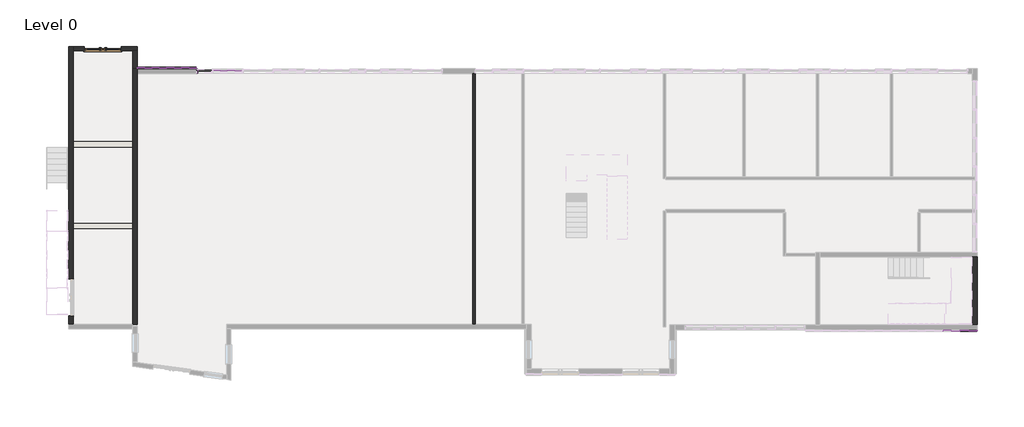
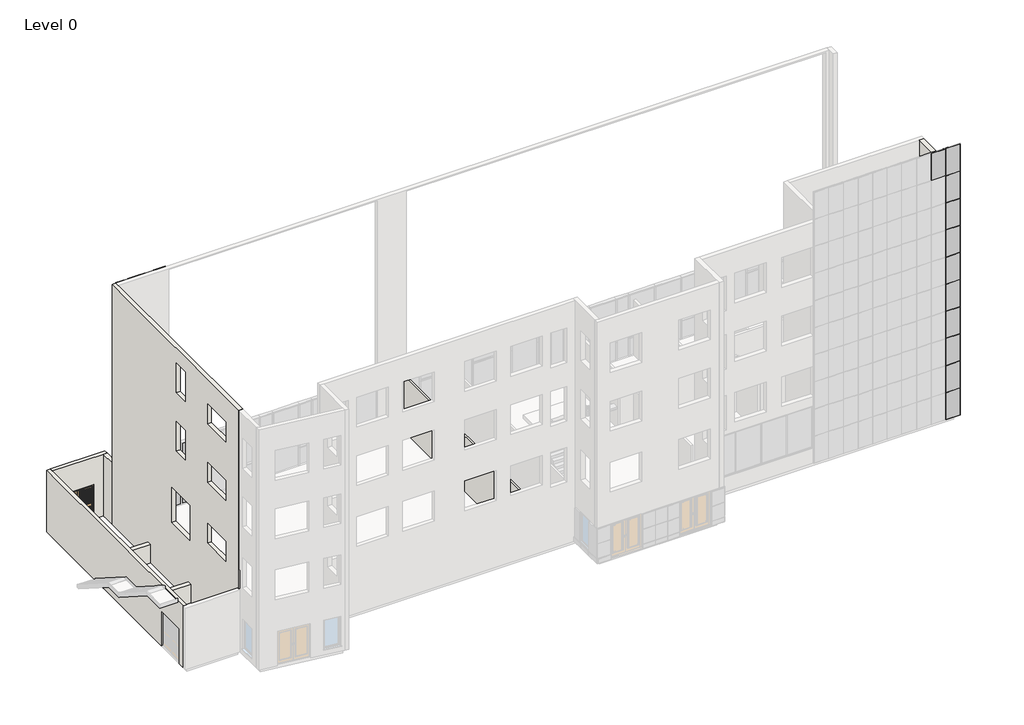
# One storey, part 5 of 10: 50 plates, 49 members, 8 walls, 1 door.
"""IFC4 building model written with IfcOpenShell, lengths in millimetres."""

from ifc_helpers import new_model, si_unit, origin, origin_with_axes, place, context, project, spatial, polyline, outline, extrude, faceted_brep, transform, mapped, element, save
from components import doors_extdbl_louvre_w_transome_1810x2110mm_eca85ab6, rectangular_mullion_25x25mm_6f655d27, rectangular_mullion_25x25mm_ababed0b, rectangular_mullion_25x25mm_a3ff25c1, rectangular_mullion_25x25mm_c524c6a9, rectangular_mullion_25x25mm_87b81b05, rectangular_mullion_25x25mm_c838776f, rectangular_mullion_25x25mm_c63ed219, rectangular_mullion_25x25mm_a7b21d2d, rectangular_mullion_25x25mm_4133c801, rectangular_mullion_25x25mm_6ee4613f, rectangular_mullion_25x25mm_0ea179df, rectangular_mullion_25x25mm_8d901635, rectangular_mullion_50x180mm_7153291d, rectangular_mullion_50x180mm_95299f7d, rectangular_mullion_50x180mm_b6846536, curtain_panels_solid_solid_panel_green_b2436ba5, curtain_panels_solid_solid_panel_green_14d680d5, curtain_panels_solid_solid_panel_green_e5ea026e, system_panel_black_panel_9c91f909, system_panel_white_panel_6a64f577, system_panel_white_panel_ff540c20

model = new_model("IFC4")

# Units and contexts
model_context = context("Model", 3, world=origin())
ifc_project = project(units=[si_unit("LENGTHUNIT", "METRE", prefix="MILLI")], contexts=[model_context])

# Site, building, storey
site = spatial("IfcSite", under=ifc_project)
building = spatial("IfcBuilding", under=site)
storey = spatial("IfcBuildingStorey", under=building, Name="Level 0", Elevation=0.0)

# Door
placement = place(None, origin())
doors_extdbl_louvre_w_transome_1810x2110mm_shape = doors_extdbl_louvre_w_transome_1810x2110mm_eca85ab6(model_context)
element("IfcDoor", 1, ObjectType="Doors_ExtDbl_Louvre_w-Transome : 1810x2110mm", at=placement, inside=storey, context=model_context, shape_type="MappedRepresentation", body=[
    mapped(doors_extdbl_louvre_w_transome_1810x2110mm_shape, transform((-3106.7140427, 10232.4946591, 0.0), x_axis=(-1.0, 0.0, 0.0), y_axis=(0.0, -1.0, 0.0), z_axis=(0.0, 0.0, 1.0))),
])

# Members
rectangular_mullion_25x25mm_shape = rectangular_mullion_25x25mm_6f655d27(model_context)
element("IfcMember", 2, ObjectType="Rectangular Mullion : 25x25mm", at=placement, inside=storey, context=model_context, shape_type="MappedRepresentation", body=[
    mapped(rectangular_mullion_25x25mm_shape, transform((39655.7942367, -3560.0053409, 0.0), x_axis=(0.0, 0.0, -1.0), y_axis=(0.0, 1.0, 0.0), z_axis=(1.0, 0.0, 0.0))),
])
rectangular_mullion_25x25mm_2_shape = rectangular_mullion_25x25mm_ababed0b(model_context)
element("IfcMember", 3, ObjectType="Rectangular Mullion : 25x25mm", at=placement, inside=storey, context=model_context, shape_type="MappedRepresentation", body=[
    mapped(rectangular_mullion_25x25mm_2_shape, transform((38816.3642365, -3560.0053409, 1660.0), x_axis=(0.0, 0.0, 1.0), y_axis=(0.0, 1.0, 0.0), z_axis=(-1.0, 0.0, 0.0))),
])
element("IfcMember", 4, ObjectType="Rectangular Mullion : 25x25mm", at=placement, inside=storey, context=model_context, shape_type="MappedRepresentation", body=[
    mapped(rectangular_mullion_25x25mm_2_shape, transform((38816.3642365, -3560.0053409, 3307.5), x_axis=(0.0, 0.0, 1.0), y_axis=(0.0, 1.0, 0.0), z_axis=(-1.0, 0.0, 0.0))),
])
element("IfcMember", 5, ObjectType="Rectangular Mullion : 25x25mm", at=placement, inside=storey, context=model_context, shape_type="MappedRepresentation", body=[
    mapped(rectangular_mullion_25x25mm_2_shape, transform((38816.3642365, -3560.0053409, 4955.0), x_axis=(0.0, 0.0, 1.0), y_axis=(0.0, 1.0, 0.0), z_axis=(-1.0, 0.0, 0.0))),
])
element("IfcMember", 6, ObjectType="Rectangular Mullion : 25x25mm", at=placement, inside=storey, context=model_context, shape_type="MappedRepresentation", body=[
    mapped(rectangular_mullion_25x25mm_2_shape, transform((38816.3642365, -3560.0053409, 6602.5), x_axis=(0.0, 0.0, 1.0), y_axis=(0.0, 1.0, 0.0), z_axis=(-1.0, 0.0, 0.0))),
])
element("IfcMember", 7, ObjectType="Rectangular Mullion : 25x25mm", at=placement, inside=storey, context=model_context, shape_type="MappedRepresentation", body=[
    mapped(rectangular_mullion_25x25mm_2_shape, transform((38816.3642365, -3560.0053409, 8250.0), x_axis=(0.0, 0.0, 1.0), y_axis=(0.0, 1.0, 0.0), z_axis=(-1.0, 0.0, 0.0))),
])
element("IfcMember", 8, ObjectType="Rectangular Mullion : 25x25mm", at=placement, inside=storey, context=model_context, shape_type="MappedRepresentation", body=[
    mapped(rectangular_mullion_25x25mm_2_shape, transform((38816.3642365, -3560.0053409, 9897.5), x_axis=(0.0, 0.0, 1.0), y_axis=(0.0, 1.0, 0.0), z_axis=(-1.0, 0.0, 0.0))),
])
element("IfcMember", 9, ObjectType="Rectangular Mullion : 25x25mm", at=placement, inside=storey, context=model_context, shape_type="MappedRepresentation", body=[
    mapped(rectangular_mullion_25x25mm_2_shape, transform((38816.3642365, -3560.0053409, 11545.0), x_axis=(0.0, 0.0, 1.0), y_axis=(0.0, 1.0, 0.0), z_axis=(-1.0, 0.0, 0.0))),
])
element("IfcMember", 10, ObjectType="Rectangular Mullion : 25x25mm", at=placement, inside=storey, context=model_context, shape_type="MappedRepresentation", body=[
    mapped(rectangular_mullion_25x25mm_2_shape, transform((38816.3642365, -3560.0053409, 13192.5), x_axis=(0.0, 0.0, 1.0), y_axis=(0.0, 1.0, 0.0), z_axis=(-1.0, 0.0, 0.0))),
])
element("IfcMember", 11, ObjectType="Rectangular Mullion : 25x25mm", at=placement, inside=storey, context=model_context, shape_type="MappedRepresentation", body=[
    mapped(rectangular_mullion_25x25mm_2_shape, transform((38816.3642365, -3560.0053409, 14840.0), x_axis=(0.0, 0.0, 1.0), y_axis=(0.0, 1.0, 0.0), z_axis=(-1.0, 0.0, 0.0))),
])
rectangular_mullion_25x25mm_3_shape = rectangular_mullion_25x25mm_a3ff25c1(model_context)
element("IfcMember", 12, ObjectType="Rectangular Mullion : 25x25mm", at=placement, inside=storey, context=model_context, shape_type="MappedRepresentation", body=[
    mapped(rectangular_mullion_25x25mm_3_shape, transform((740.7900968, 9282.4946591, 11348.6111111), x_axis=(-1.0, 0.0, 0.0), y_axis=(0.0, 1.0, 0.0), z_axis=(0.0, 0.0, -1.0))),
])
element("IfcMember", 13, ObjectType="Rectangular Mullion : 25x25mm", at=placement, inside=storey, context=model_context, shape_type="MappedRepresentation", body=[
    mapped(rectangular_mullion_25x25mm_3_shape, transform((13.2859573, 9282.4946591, 11348.6111111), x_axis=(-1.0, 0.0, 0.0), y_axis=(0.0, 1.0, 0.0), z_axis=(0.0, 0.0, -1.0))),
])
element("IfcMember", 14, ObjectType="Rectangular Mullion : 25x25mm", at=placement, inside=storey, context=model_context, shape_type="MappedRepresentation", body=[
    mapped(rectangular_mullion_25x25mm_3_shape, transform((-714.2181823, 9282.4946591, 11348.6111111), x_axis=(-1.0, 0.0, 0.0), y_axis=(0.0, 1.0, 0.0), z_axis=(0.0, 0.0, -1.0))),
])
rectangular_mullion_25x25mm_4_shape = rectangular_mullion_25x25mm_c524c6a9(model_context)
element("IfcMember", 15, ObjectType="Rectangular Mullion : 25x25mm", at=placement, inside=storey, context=model_context, shape_type="MappedRepresentation", body=[
    mapped(rectangular_mullion_25x25mm_4_shape, transform((740.7900968, 9282.4946591, 12968.0555556), x_axis=(-1.0, 0.0, 0.0), y_axis=(0.0, 1.0, 0.0), z_axis=(0.0, 0.0, -1.0))),
])
element("IfcMember", 16, ObjectType="Rectangular Mullion : 25x25mm", at=placement, inside=storey, context=model_context, shape_type="MappedRepresentation", body=[
    mapped(rectangular_mullion_25x25mm_4_shape, transform((13.2859573, 9282.4946591, 12968.0555556), x_axis=(-1.0, 0.0, 0.0), y_axis=(0.0, 1.0, 0.0), z_axis=(0.0, 0.0, -1.0))),
])
element("IfcMember", 17, ObjectType="Rectangular Mullion : 25x25mm", at=placement, inside=storey, context=model_context, shape_type="MappedRepresentation", body=[
    mapped(rectangular_mullion_25x25mm_4_shape, transform((-714.2181823, 9282.4946591, 12968.0555556), x_axis=(-1.0, 0.0, 0.0), y_axis=(0.0, 1.0, 0.0), z_axis=(0.0, 0.0, -1.0))),
])
rectangular_mullion_25x25mm_5_shape = rectangular_mullion_25x25mm_87b81b05(model_context)
element("IfcMember", 18, ObjectType="Rectangular Mullion : 25x25mm", at=placement, inside=storey, context=model_context, shape_type="MappedRepresentation", body=[
    mapped(rectangular_mullion_25x25mm_5_shape, transform((753.2900968, 9282.4946591, 11348.6111111), x_axis=(0.0, 0.0, 1.0), y_axis=(0.0, 1.0, 0.0), z_axis=(-1.0, 0.0, 0.0))),
])
element("IfcMember", 19, ObjectType="Rectangular Mullion : 25x25mm", at=placement, inside=storey, context=model_context, shape_type="MappedRepresentation", body=[
    mapped(rectangular_mullion_25x25mm_5_shape, transform((25.7859573, 9282.4946591, 11348.6111111), x_axis=(0.0, 0.0, 1.0), y_axis=(0.0, 1.0, 0.0), z_axis=(-1.0, 0.0, 0.0))),
])
element("IfcMember", 20, ObjectType="Rectangular Mullion : 25x25mm", at=placement, inside=storey, context=model_context, shape_type="MappedRepresentation", body=[
    mapped(rectangular_mullion_25x25mm_5_shape, transform((-701.7181823, 9282.4946591, 11348.6111111), x_axis=(0.0, 0.0, 1.0), y_axis=(0.0, 1.0, 0.0), z_axis=(-1.0, 0.0, 0.0))),
])
element("IfcMember", 21, ObjectType="Rectangular Mullion : 25x25mm", at=placement, inside=storey, context=model_context, shape_type="MappedRepresentation", body=[
    mapped(rectangular_mullion_25x25mm_5_shape, transform((753.2900968, 9282.4946591, 12968.0555556), x_axis=(0.0, 0.0, 1.0), y_axis=(0.0, 1.0, 0.0), z_axis=(-1.0, 0.0, 0.0))),
])
element("IfcMember", 22, ObjectType="Rectangular Mullion : 25x25mm", at=placement, inside=storey, context=model_context, shape_type="MappedRepresentation", body=[
    mapped(rectangular_mullion_25x25mm_5_shape, transform((25.7859573, 9282.4946591, 12968.0555556), x_axis=(0.0, 0.0, 1.0), y_axis=(0.0, 1.0, 0.0), z_axis=(-1.0, 0.0, 0.0))),
])
element("IfcMember", 23, ObjectType="Rectangular Mullion : 25x25mm", at=placement, inside=storey, context=model_context, shape_type="MappedRepresentation", body=[
    mapped(rectangular_mullion_25x25mm_5_shape, transform((-701.7181823, 9282.4946591, 12968.0555556), x_axis=(0.0, 0.0, 1.0), y_axis=(0.0, 1.0, 0.0), z_axis=(-1.0, 0.0, 0.0))),
])
rectangular_mullion_25x25mm_6_shape = rectangular_mullion_25x25mm_c838776f(model_context)
element("IfcMember", 24, ObjectType="Rectangular Mullion : 25x25mm", at=placement, inside=storey, context=model_context, shape_type="MappedRepresentation", body=[
    mapped(rectangular_mullion_25x25mm_6_shape, transform((-1404.2223222, 9282.4946591, 11348.6111111), x_axis=(0.0, 0.0, 1.0), y_axis=(0.0, 1.0, 0.0), z_axis=(-1.0, 0.0, 0.0))),
])
element("IfcMember", 25, ObjectType="Rectangular Mullion : 25x25mm", at=placement, inside=storey, context=model_context, shape_type="MappedRepresentation", body=[
    mapped(rectangular_mullion_25x25mm_6_shape, transform((-1404.2223222, 9282.4946591, 12968.0555556), x_axis=(0.0, 0.0, 1.0), y_axis=(0.0, 1.0, 0.0), z_axis=(-1.0, 0.0, 0.0))),
])
rectangular_mullion_25x25mm_7_shape = rectangular_mullion_25x25mm_c63ed219(model_context)
element("IfcMember", 26, ObjectType="Rectangular Mullion : 25x25mm", at=placement, inside=storey, context=model_context, shape_type="MappedRepresentation", body=[
    mapped(rectangular_mullion_25x25mm_7_shape, transform((1480.7942367, 9282.4946591, 11348.6111111), x_axis=(1.0, 0.0, 0.0), y_axis=(0.0, 1.0, 0.0), z_axis=(0.0, 0.0, 1.0))),
])
element("IfcMember", 27, ObjectType="Rectangular Mullion : 25x25mm", at=placement, inside=storey, context=model_context, shape_type="MappedRepresentation", body=[
    mapped(rectangular_mullion_25x25mm_7_shape, transform((1480.7942367, 9282.4946591, 12968.0555556), x_axis=(1.0, 0.0, 0.0), y_axis=(0.0, 1.0, 0.0), z_axis=(0.0, 0.0, 1.0))),
])
element("IfcMember", 28, ObjectType="Rectangular Mullion : 25x25mm", at=placement, inside=storey, context=model_context, shape_type="MappedRepresentation", body=[
    mapped(rectangular_mullion_25x25mm_7_shape, transform((-1429.2223222, 9282.4946591, 11348.6111111), x_axis=(-1.0, 0.0, 0.0), y_axis=(0.0, 1.0, 0.0), z_axis=(0.0, 0.0, -1.0))),
])
rectangular_mullion_25x25mm_8_shape = rectangular_mullion_25x25mm_a7b21d2d(model_context)
element("IfcMember", 29, ObjectType="Rectangular Mullion : 25x25mm", at=placement, inside=storey, context=model_context, shape_type="MappedRepresentation", body=[
    mapped(rectangular_mullion_25x25mm_8_shape, transform((-1429.2223222, 9282.4946591, 12968.0555556), x_axis=(-1.0, 0.0, 0.0), y_axis=(0.0, 1.0, 0.0), z_axis=(0.0, 0.0, -1.0))),
])
rectangular_mullion_25x25mm_9_shape = rectangular_mullion_25x25mm_4133c801(model_context)
element("IfcMember", 30, ObjectType="Rectangular Mullion : 25x25mm", at=placement, inside=storey, context=model_context, shape_type="MappedRepresentation", body=[
    mapped(rectangular_mullion_25x25mm_9_shape, transform((38803.8642365, -3560.0053409, 3307.5), x_axis=(-1.0, 0.0, 0.0), y_axis=(0.0, 1.0, 0.0), z_axis=(0.0, 0.0, -1.0))),
])
element("IfcMember", 31, ObjectType="Rectangular Mullion : 25x25mm", at=placement, inside=storey, context=model_context, shape_type="MappedRepresentation", body=[
    mapped(rectangular_mullion_25x25mm_9_shape, transform((38803.8642365, -3560.0053409, 4955.0), x_axis=(-1.0, 0.0, 0.0), y_axis=(0.0, 1.0, 0.0), z_axis=(0.0, 0.0, -1.0))),
])
element("IfcMember", 32, ObjectType="Rectangular Mullion : 25x25mm", at=placement, inside=storey, context=model_context, shape_type="MappedRepresentation", body=[
    mapped(rectangular_mullion_25x25mm_9_shape, transform((38803.8642365, -3560.0053409, 6602.5), x_axis=(-1.0, 0.0, 0.0), y_axis=(0.0, 1.0, 0.0), z_axis=(0.0, 0.0, -1.0))),
])
element("IfcMember", 33, ObjectType="Rectangular Mullion : 25x25mm", at=placement, inside=storey, context=model_context, shape_type="MappedRepresentation", body=[
    mapped(rectangular_mullion_25x25mm_9_shape, transform((38803.8642365, -3560.0053409, 8250.0), x_axis=(-1.0, 0.0, 0.0), y_axis=(0.0, 1.0, 0.0), z_axis=(0.0, 0.0, -1.0))),
])
element("IfcMember", 34, ObjectType="Rectangular Mullion : 25x25mm", at=placement, inside=storey, context=model_context, shape_type="MappedRepresentation", body=[
    mapped(rectangular_mullion_25x25mm_9_shape, transform((38803.8642365, -3560.0053409, 9897.5), x_axis=(-1.0, 0.0, 0.0), y_axis=(0.0, 1.0, 0.0), z_axis=(0.0, 0.0, -1.0))),
])
element("IfcMember", 35, ObjectType="Rectangular Mullion : 25x25mm", at=placement, inside=storey, context=model_context, shape_type="MappedRepresentation", body=[
    mapped(rectangular_mullion_25x25mm_9_shape, transform((38803.8642365, -3560.0053409, 11545.0), x_axis=(-1.0, 0.0, 0.0), y_axis=(0.0, 1.0, 0.0), z_axis=(0.0, 0.0, -1.0))),
])
element("IfcMember", 36, ObjectType="Rectangular Mullion : 25x25mm", at=placement, inside=storey, context=model_context, shape_type="MappedRepresentation", body=[
    mapped(rectangular_mullion_25x25mm_9_shape, transform((38803.8642365, -3560.0053409, 13192.5), x_axis=(-1.0, 0.0, 0.0), y_axis=(0.0, 1.0, 0.0), z_axis=(0.0, 0.0, -1.0))),
])
rectangular_mullion_25x25mm_10_shape = rectangular_mullion_25x25mm_6ee4613f(model_context)
element("IfcMember", 37, ObjectType="Rectangular Mullion : 25x25mm", at=placement, inside=storey, context=model_context, shape_type="MappedRepresentation", body=[
    mapped(rectangular_mullion_25x25mm_10_shape, transform((39655.7942367, -3560.0053409, 1660.0), x_axis=(1.0, 0.0, 0.0), y_axis=(0.0, 1.0, 0.0), z_axis=(0.0, 0.0, 1.0))),
])
rectangular_mullion_25x25mm_11_shape = rectangular_mullion_25x25mm_0ea179df(model_context)
element("IfcMember", 38, ObjectType="Rectangular Mullion : 25x25mm", at=placement, inside=storey, context=model_context, shape_type="MappedRepresentation", body=[
    mapped(rectangular_mullion_25x25mm_11_shape, transform((39655.7942367, -3560.0053409, 3307.5), x_axis=(1.0, 0.0, 0.0), y_axis=(0.0, 1.0, 0.0), z_axis=(0.0, 0.0, 1.0))),
])
element("IfcMember", 39, ObjectType="Rectangular Mullion : 25x25mm", at=placement, inside=storey, context=model_context, shape_type="MappedRepresentation", body=[
    mapped(rectangular_mullion_25x25mm_11_shape, transform((39655.7942367, -3560.0053409, 4955.0), x_axis=(1.0, 0.0, 0.0), y_axis=(0.0, 1.0, 0.0), z_axis=(0.0, 0.0, 1.0))),
])
element("IfcMember", 40, ObjectType="Rectangular Mullion : 25x25mm", at=placement, inside=storey, context=model_context, shape_type="MappedRepresentation", body=[
    mapped(rectangular_mullion_25x25mm_11_shape, transform((39655.7942367, -3560.0053409, 6602.5), x_axis=(1.0, 0.0, 0.0), y_axis=(0.0, 1.0, 0.0), z_axis=(0.0, 0.0, 1.0))),
])
element("IfcMember", 41, ObjectType="Rectangular Mullion : 25x25mm", at=placement, inside=storey, context=model_context, shape_type="MappedRepresentation", body=[
    mapped(rectangular_mullion_25x25mm_11_shape, transform((39655.7942367, -3560.0053409, 8250.0), x_axis=(1.0, 0.0, 0.0), y_axis=(0.0, 1.0, 0.0), z_axis=(0.0, 0.0, 1.0))),
])
element("IfcMember", 42, ObjectType="Rectangular Mullion : 25x25mm", at=placement, inside=storey, context=model_context, shape_type="MappedRepresentation", body=[
    mapped(rectangular_mullion_25x25mm_11_shape, transform((39655.7942367, -3560.0053409, 9897.5), x_axis=(1.0, 0.0, 0.0), y_axis=(0.0, 1.0, 0.0), z_axis=(0.0, 0.0, 1.0))),
])
element("IfcMember", 43, ObjectType="Rectangular Mullion : 25x25mm", at=placement, inside=storey, context=model_context, shape_type="MappedRepresentation", body=[
    mapped(rectangular_mullion_25x25mm_11_shape, transform((39655.7942367, -3560.0053409, 11545.0), x_axis=(1.0, 0.0, 0.0), y_axis=(0.0, 1.0, 0.0), z_axis=(0.0, 0.0, 1.0))),
])
element("IfcMember", 44, ObjectType="Rectangular Mullion : 25x25mm", at=placement, inside=storey, context=model_context, shape_type="MappedRepresentation", body=[
    mapped(rectangular_mullion_25x25mm_11_shape, transform((39655.7942367, -3560.0053409, 13192.5), x_axis=(1.0, 0.0, 0.0), y_axis=(0.0, 1.0, 0.0), z_axis=(0.0, 0.0, 1.0))),
])
element("IfcMember", 45, ObjectType="Rectangular Mullion : 25x25mm", at=placement, inside=storey, context=model_context, shape_type="MappedRepresentation", body=[
    mapped(rectangular_mullion_25x25mm_11_shape, transform((39655.7942367, -3560.0053409, 14840.0), x_axis=(1.0, 0.0, 0.0), y_axis=(0.0, 1.0, 0.0), z_axis=(0.0, 0.0, 1.0))),
])
rectangular_mullion_25x25mm_12_shape = rectangular_mullion_25x25mm_8d901635(model_context)
element("IfcMember", 46, ObjectType="Rectangular Mullion : 25x25mm", at=placement, inside=storey, context=model_context, shape_type="MappedRepresentation", body=[
    mapped(rectangular_mullion_25x25mm_12_shape, transform((38803.8642365, -3560.0053409, 14840.0), x_axis=(-1.0, 0.0, 0.0), y_axis=(0.0, 1.0, 0.0), z_axis=(0.0, 0.0, -1.0))),
])
element("IfcMember", 47, ObjectType="Rectangular Mullion : 25x25mm", at=placement, inside=storey, context=model_context, shape_type="MappedRepresentation", body=[
    mapped(rectangular_mullion_25x25mm_10_shape, transform((39655.7942367, -3560.0053409, 16475.0), x_axis=(1.0, 0.0, 0.0), y_axis=(0.0, 1.0, 0.0), z_axis=(0.0, 0.0, 1.0))),
])
rectangular_mullion_50x180mm_shape = rectangular_mullion_50x180mm_7153291d(model_context)
element("IfcMember", 48, ObjectType="Rectangular Mullion : 50x180mm", at=placement, inside=storey, context=model_context, shape_type="MappedRepresentation", body=[
    mapped(rectangular_mullion_50x180mm_shape, transform((1480.7942367, 9132.4946591, 1100.0), x_axis=(-1.0, 0.0, 0.0), y_axis=(0.0, -1.0, 0.0), z_axis=(0.0, 0.0, 1.0))),
])
rectangular_mullion_50x180mm_2_shape = rectangular_mullion_50x180mm_95299f7d(model_context)
element("IfcMember", 49, ObjectType="Rectangular Mullion : 50x180mm", at=placement, inside=storey, context=model_context, shape_type="MappedRepresentation", body=[
    mapped(rectangular_mullion_50x180mm_2_shape, transform((1480.7942367, 9132.4946591, 2700.0), x_axis=(-1.0, 0.0, 0.0), y_axis=(0.0, -1.0, 0.0), z_axis=(0.0, 0.0, 1.0))),
])
rectangular_mullion_50x180mm_3_shape = rectangular_mullion_50x180mm_b6846536(model_context)
element("IfcMember", 50, ObjectType="Rectangular Mullion : 50x180mm", at=placement, inside=storey, context=model_context, shape_type="MappedRepresentation", body=[
    mapped(rectangular_mullion_50x180mm_3_shape, transform((1480.7942367, 9132.4946591, 3700.0), x_axis=(-1.0, 0.0, 0.0), y_axis=(0.0, -1.0, 0.0), z_axis=(0.0, 0.0, 1.0))),
])

# Plates
curtain_panels_solid_solid_panel_green_shape = curtain_panels_solid_solid_panel_green_b2436ba5(model_context)
element("IfcPlate", 51, ObjectType="Curtain_Panels_Solid : Solid_Panel_Green", at=placement, inside=storey, context=model_context, shape_type="MappedRepresentation", body=[
    mapped(curtain_panels_solid_solid_panel_green_shape, transform((1104.5421667, 9282.4946591, 25.0), x_axis=(-1.0, 0.0, 0.0), y_axis=(0.0, -1.0, 0.0), z_axis=(0.0, 0.0, 1.0))),
])
element("IfcPlate", 52, ObjectType="Curtain_Panels_Solid : Solid_Panel_Green", at=placement, inside=storey, context=model_context, shape_type="MappedRepresentation", body=[
    mapped(curtain_panels_solid_solid_panel_green_shape, transform((377.038027, 9282.4946591, 25.0), x_axis=(-1.0, 0.0, 0.0), y_axis=(0.0, -1.0, 0.0), z_axis=(0.0, 0.0, 1.0))),
])
element("IfcPlate", 53, ObjectType="Curtain_Panels_Solid : Solid_Panel_Green", at=placement, inside=storey, context=model_context, shape_type="MappedRepresentation", body=[
    mapped(curtain_panels_solid_solid_panel_green_shape, transform((-350.4661125, 9282.4946591, 25.0), x_axis=(-1.0, 0.0, 0.0), y_axis=(0.0, -1.0, 0.0), z_axis=(0.0, 0.0, 1.0))),
])
element("IfcPlate", 54, ObjectType="Curtain_Panels_Solid : Solid_Panel_Green", at=placement, inside=storey, context=model_context, shape_type="MappedRepresentation", body=[
    mapped(curtain_panels_solid_solid_panel_green_shape, transform((1104.5421667, 9282.4946591, 1644.4444444), x_axis=(-1.0, 0.0, 0.0), y_axis=(0.0, -1.0, 0.0), z_axis=(0.0, 0.0, 1.0))),
])
element("IfcPlate", 55, ObjectType="Curtain_Panels_Solid : Solid_Panel_Green", at=placement, inside=storey, context=model_context, shape_type="MappedRepresentation", body=[
    mapped(curtain_panels_solid_solid_panel_green_shape, transform((377.038027, 9282.4946591, 1644.4444444), x_axis=(-1.0, 0.0, 0.0), y_axis=(0.0, -1.0, 0.0), z_axis=(0.0, 0.0, 1.0))),
])
element("IfcPlate", 56, ObjectType="Curtain_Panels_Solid : Solid_Panel_Green", at=placement, inside=storey, context=model_context, shape_type="MappedRepresentation", body=[
    mapped(curtain_panels_solid_solid_panel_green_shape, transform((-350.4661125, 9282.4946591, 1644.4444444), x_axis=(-1.0, 0.0, 0.0), y_axis=(0.0, -1.0, 0.0), z_axis=(0.0, 0.0, 1.0))),
])
element("IfcPlate", 57, ObjectType="Curtain_Panels_Solid : Solid_Panel_Green", at=placement, inside=storey, context=model_context, shape_type="MappedRepresentation", body=[
    mapped(curtain_panels_solid_solid_panel_green_shape, transform((1104.5421667, 9282.4946591, 3263.8888889), x_axis=(-1.0, 0.0, 0.0), y_axis=(0.0, -1.0, 0.0), z_axis=(0.0, 0.0, 1.0))),
])
element("IfcPlate", 58, ObjectType="Curtain_Panels_Solid : Solid_Panel_Green", at=placement, inside=storey, context=model_context, shape_type="MappedRepresentation", body=[
    mapped(curtain_panels_solid_solid_panel_green_shape, transform((377.038027, 9282.4946591, 3263.8888889), x_axis=(-1.0, 0.0, 0.0), y_axis=(0.0, -1.0, 0.0), z_axis=(0.0, 0.0, 1.0))),
])
element("IfcPlate", 59, ObjectType="Curtain_Panels_Solid : Solid_Panel_Green", at=placement, inside=storey, context=model_context, shape_type="MappedRepresentation", body=[
    mapped(curtain_panels_solid_solid_panel_green_shape, transform((-350.4661125, 9282.4946591, 3263.8888889), x_axis=(-1.0, 0.0, 0.0), y_axis=(0.0, -1.0, 0.0), z_axis=(0.0, 0.0, 1.0))),
])
element("IfcPlate", 60, ObjectType="Curtain_Panels_Solid : Solid_Panel_Green", at=placement, inside=storey, context=model_context, shape_type="MappedRepresentation", body=[
    mapped(curtain_panels_solid_solid_panel_green_shape, transform((1104.5421667, 9282.4946591, 4883.3333333), x_axis=(-1.0, 0.0, 0.0), y_axis=(0.0, -1.0, 0.0), z_axis=(0.0, 0.0, 1.0))),
])
element("IfcPlate", 61, ObjectType="Curtain_Panels_Solid : Solid_Panel_Green", at=placement, inside=storey, context=model_context, shape_type="MappedRepresentation", body=[
    mapped(curtain_panels_solid_solid_panel_green_shape, transform((377.038027, 9282.4946591, 4883.3333333), x_axis=(-1.0, 0.0, 0.0), y_axis=(0.0, -1.0, 0.0), z_axis=(0.0, 0.0, 1.0))),
])
element("IfcPlate", 62, ObjectType="Curtain_Panels_Solid : Solid_Panel_Green", at=placement, inside=storey, context=model_context, shape_type="MappedRepresentation", body=[
    mapped(curtain_panels_solid_solid_panel_green_shape, transform((-350.4661125, 9282.4946591, 4883.3333333), x_axis=(-1.0, 0.0, 0.0), y_axis=(0.0, -1.0, 0.0), z_axis=(0.0, 0.0, 1.0))),
])
element("IfcPlate", 63, ObjectType="Curtain_Panels_Solid : Solid_Panel_Green", at=placement, inside=storey, context=model_context, shape_type="MappedRepresentation", body=[
    mapped(curtain_panels_solid_solid_panel_green_shape, transform((1104.5421667, 9282.4946591, 6502.7777778), x_axis=(-1.0, 0.0, 0.0), y_axis=(0.0, -1.0, 0.0), z_axis=(0.0, 0.0, 1.0))),
])
element("IfcPlate", 64, ObjectType="Curtain_Panels_Solid : Solid_Panel_Green", at=placement, inside=storey, context=model_context, shape_type="MappedRepresentation", body=[
    mapped(curtain_panels_solid_solid_panel_green_shape, transform((377.038027, 9282.4946591, 6502.7777778), x_axis=(-1.0, 0.0, 0.0), y_axis=(0.0, -1.0, 0.0), z_axis=(0.0, 0.0, 1.0))),
])
element("IfcPlate", 65, ObjectType="Curtain_Panels_Solid : Solid_Panel_Green", at=placement, inside=storey, context=model_context, shape_type="MappedRepresentation", body=[
    mapped(curtain_panels_solid_solid_panel_green_shape, transform((-350.4661125, 9282.4946591, 6502.7777778), x_axis=(-1.0, 0.0, 0.0), y_axis=(0.0, -1.0, 0.0), z_axis=(0.0, 0.0, 1.0))),
])
element("IfcPlate", 66, ObjectType="Curtain_Panels_Solid : Solid_Panel_Green", at=placement, inside=storey, context=model_context, shape_type="MappedRepresentation", body=[
    mapped(curtain_panels_solid_solid_panel_green_shape, transform((1104.5421667, 9282.4946591, 8122.2222222), x_axis=(-1.0, 0.0, 0.0), y_axis=(0.0, -1.0, 0.0), z_axis=(0.0, 0.0, 1.0))),
])
element("IfcPlate", 67, ObjectType="Curtain_Panels_Solid : Solid_Panel_Green", at=placement, inside=storey, context=model_context, shape_type="MappedRepresentation", body=[
    mapped(curtain_panels_solid_solid_panel_green_shape, transform((377.038027, 9282.4946591, 8122.2222222), x_axis=(-1.0, 0.0, 0.0), y_axis=(0.0, -1.0, 0.0), z_axis=(0.0, 0.0, 1.0))),
])
element("IfcPlate", 68, ObjectType="Curtain_Panels_Solid : Solid_Panel_Green", at=placement, inside=storey, context=model_context, shape_type="MappedRepresentation", body=[
    mapped(curtain_panels_solid_solid_panel_green_shape, transform((-350.4661125, 9282.4946591, 8122.2222222), x_axis=(-1.0, 0.0, 0.0), y_axis=(0.0, -1.0, 0.0), z_axis=(0.0, 0.0, 1.0))),
])
element("IfcPlate", 69, ObjectType="Curtain_Panels_Solid : Solid_Panel_Green", at=placement, inside=storey, context=model_context, shape_type="MappedRepresentation", body=[
    mapped(curtain_panels_solid_solid_panel_green_shape, transform((1104.5421667, 9282.4946591, 9741.6666667), x_axis=(-1.0, 0.0, 0.0), y_axis=(0.0, -1.0, 0.0), z_axis=(0.0, 0.0, 1.0))),
])
element("IfcPlate", 70, ObjectType="Curtain_Panels_Solid : Solid_Panel_Green", at=placement, inside=storey, context=model_context, shape_type="MappedRepresentation", body=[
    mapped(curtain_panels_solid_solid_panel_green_shape, transform((377.038027, 9282.4946591, 9741.6666667), x_axis=(-1.0, 0.0, 0.0), y_axis=(0.0, -1.0, 0.0), z_axis=(0.0, 0.0, 1.0))),
])
element("IfcPlate", 71, ObjectType="Curtain_Panels_Solid : Solid_Panel_Green", at=placement, inside=storey, context=model_context, shape_type="MappedRepresentation", body=[
    mapped(curtain_panels_solid_solid_panel_green_shape, transform((-350.4661125, 9282.4946591, 9741.6666667), x_axis=(-1.0, 0.0, 0.0), y_axis=(0.0, -1.0, 0.0), z_axis=(0.0, 0.0, 1.0))),
])
element("IfcPlate", 72, ObjectType="Curtain_Panels_Solid : Solid_Panel_Green", at=placement, inside=storey, context=model_context, shape_type="MappedRepresentation", body=[
    mapped(curtain_panels_solid_solid_panel_green_shape, transform((1104.5421667, 9282.4946591, 11361.1111111), x_axis=(-1.0, 0.0, 0.0), y_axis=(0.0, -1.0, 0.0), z_axis=(0.0, 0.0, 1.0))),
])
element("IfcPlate", 73, ObjectType="Curtain_Panels_Solid : Solid_Panel_Green", at=placement, inside=storey, context=model_context, shape_type="MappedRepresentation", body=[
    mapped(curtain_panels_solid_solid_panel_green_shape, transform((377.038027, 9282.4946591, 11361.1111111), x_axis=(-1.0, 0.0, 0.0), y_axis=(0.0, -1.0, 0.0), z_axis=(0.0, 0.0, 1.0))),
])
element("IfcPlate", 74, ObjectType="Curtain_Panels_Solid : Solid_Panel_Green", at=placement, inside=storey, context=model_context, shape_type="MappedRepresentation", body=[
    mapped(curtain_panels_solid_solid_panel_green_shape, transform((-350.4661125, 9282.4946591, 11361.1111111), x_axis=(-1.0, 0.0, 0.0), y_axis=(0.0, -1.0, 0.0), z_axis=(0.0, 0.0, 1.0))),
])
element("IfcPlate", 75, ObjectType="Curtain_Panels_Solid : Solid_Panel_Green", at=placement, inside=storey, context=model_context, shape_type="MappedRepresentation", body=[
    mapped(curtain_panels_solid_solid_panel_green_shape, transform((1104.5421667, 9282.4946591, 12980.5555556), x_axis=(-1.0, 0.0, 0.0), y_axis=(0.0, -1.0, 0.0), z_axis=(0.0, 0.0, 1.0))),
])
element("IfcPlate", 76, ObjectType="Curtain_Panels_Solid : Solid_Panel_Green", at=placement, inside=storey, context=model_context, shape_type="MappedRepresentation", body=[
    mapped(curtain_panels_solid_solid_panel_green_shape, transform((377.038027, 9282.4946591, 12980.5555556), x_axis=(-1.0, 0.0, 0.0), y_axis=(0.0, -1.0, 0.0), z_axis=(0.0, 0.0, 1.0))),
])
element("IfcPlate", 77, ObjectType="Curtain_Panels_Solid : Solid_Panel_Green", at=placement, inside=storey, context=model_context, shape_type="MappedRepresentation", body=[
    mapped(curtain_panels_solid_solid_panel_green_shape, transform((-350.4661125, 9282.4946591, 12980.5555556), x_axis=(-1.0, 0.0, 0.0), y_axis=(0.0, -1.0, 0.0), z_axis=(0.0, 0.0, 1.0))),
])
curtain_panels_solid_solid_panel_green_2_shape = curtain_panels_solid_solid_panel_green_14d680d5(model_context)
element("IfcPlate", 78, ObjectType="Curtain_Panels_Solid : Solid_Panel_Green", at=placement, inside=storey, context=model_context, shape_type="MappedRepresentation", body=[
    mapped(curtain_panels_solid_solid_panel_green_2_shape, transform((-1065.4702522, 9282.4946591, 25.0), x_axis=(-1.0, 0.0, 0.0), y_axis=(0.0, -1.0, 0.0), z_axis=(0.0, 0.0, 1.0))),
])
element("IfcPlate", 79, ObjectType="Curtain_Panels_Solid : Solid_Panel_Green", at=placement, inside=storey, context=model_context, shape_type="MappedRepresentation", body=[
    mapped(curtain_panels_solid_solid_panel_green_2_shape, transform((-1065.4702522, 9282.4946591, 1644.4444444), x_axis=(-1.0, 0.0, 0.0), y_axis=(0.0, -1.0, 0.0), z_axis=(0.0, 0.0, 1.0))),
])
element("IfcPlate", 80, ObjectType="Curtain_Panels_Solid : Solid_Panel_Green", at=placement, inside=storey, context=model_context, shape_type="MappedRepresentation", body=[
    mapped(curtain_panels_solid_solid_panel_green_2_shape, transform((-1065.4702522, 9282.4946591, 3263.8888889), x_axis=(-1.0, 0.0, 0.0), y_axis=(0.0, -1.0, 0.0), z_axis=(0.0, 0.0, 1.0))),
])
element("IfcPlate", 81, ObjectType="Curtain_Panels_Solid : Solid_Panel_Green", at=placement, inside=storey, context=model_context, shape_type="MappedRepresentation", body=[
    mapped(curtain_panels_solid_solid_panel_green_2_shape, transform((-1065.4702522, 9282.4946591, 4883.3333333), x_axis=(-1.0, 0.0, 0.0), y_axis=(0.0, -1.0, 0.0), z_axis=(0.0, 0.0, 1.0))),
])
element("IfcPlate", 82, ObjectType="Curtain_Panels_Solid : Solid_Panel_Green", at=placement, inside=storey, context=model_context, shape_type="MappedRepresentation", body=[
    mapped(curtain_panels_solid_solid_panel_green_2_shape, transform((-1065.4702522, 9282.4946591, 6502.7777778), x_axis=(-1.0, 0.0, 0.0), y_axis=(0.0, -1.0, 0.0), z_axis=(0.0, 0.0, 1.0))),
])
element("IfcPlate", 83, ObjectType="Curtain_Panels_Solid : Solid_Panel_Green", at=placement, inside=storey, context=model_context, shape_type="MappedRepresentation", body=[
    mapped(curtain_panels_solid_solid_panel_green_2_shape, transform((-1065.4702522, 9282.4946591, 8122.2222222), x_axis=(-1.0, 0.0, 0.0), y_axis=(0.0, -1.0, 0.0), z_axis=(0.0, 0.0, 1.0))),
])
element("IfcPlate", 84, ObjectType="Curtain_Panels_Solid : Solid_Panel_Green", at=placement, inside=storey, context=model_context, shape_type="MappedRepresentation", body=[
    mapped(curtain_panels_solid_solid_panel_green_2_shape, transform((-1065.4702522, 9282.4946591, 9741.6666667), x_axis=(-1.0, 0.0, 0.0), y_axis=(0.0, -1.0, 0.0), z_axis=(0.0, 0.0, 1.0))),
])
element("IfcPlate", 85, ObjectType="Curtain_Panels_Solid : Solid_Panel_Green", at=placement, inside=storey, context=model_context, shape_type="MappedRepresentation", body=[
    mapped(curtain_panels_solid_solid_panel_green_2_shape, transform((-1065.4702522, 9282.4946591, 11361.1111111), x_axis=(-1.0, 0.0, 0.0), y_axis=(0.0, -1.0, 0.0), z_axis=(0.0, 0.0, 1.0))),
])
element("IfcPlate", 86, ObjectType="Curtain_Panels_Solid : Solid_Panel_Green", at=placement, inside=storey, context=model_context, shape_type="MappedRepresentation", body=[
    mapped(curtain_panels_solid_solid_panel_green_2_shape, transform((-1065.4702522, 9282.4946591, 12980.5555556), x_axis=(-1.0, 0.0, 0.0), y_axis=(0.0, -1.0, 0.0), z_axis=(0.0, 0.0, 1.0))),
])
curtain_panels_solid_solid_panel_green_3_shape = curtain_panels_solid_solid_panel_green_e5ea026e(model_context)
element("IfcPlate", 87, ObjectType="Curtain_Panels_Solid : Solid_Panel_Green", at=placement, inside=storey, context=model_context, shape_type="MappedRepresentation", body=[
    mapped(curtain_panels_solid_solid_panel_green_3_shape, transform((39223.5792366, -3560.0053409, 25.0), x_axis=(-1.0, 0.0, 0.0), y_axis=(0.0, -1.0, 0.0), z_axis=(0.0, 0.0, 1.0))),
])
element("IfcPlate", 88, ObjectType="Curtain_Panels_Solid : Solid_Panel_Green", at=placement, inside=storey, context=model_context, shape_type="MappedRepresentation", body=[
    mapped(curtain_panels_solid_solid_panel_green_3_shape, transform((39223.5792366, -3560.0053409, 1672.5), x_axis=(-1.0, 0.0, 0.0), y_axis=(0.0, -1.0, 0.0), z_axis=(0.0, 0.0, 1.0))),
])
element("IfcPlate", 89, ObjectType="Curtain_Panels_Solid : Solid_Panel_Green", at=placement, inside=storey, context=model_context, shape_type="MappedRepresentation", body=[
    mapped(curtain_panels_solid_solid_panel_green_3_shape, transform((39223.5792366, -3560.0053409, 3320.0), x_axis=(-1.0, 0.0, 0.0), y_axis=(0.0, -1.0, 0.0), z_axis=(0.0, 0.0, 1.0))),
])
element("IfcPlate", 90, ObjectType="Curtain_Panels_Solid : Solid_Panel_Green", at=placement, inside=storey, context=model_context, shape_type="MappedRepresentation", body=[
    mapped(curtain_panels_solid_solid_panel_green_3_shape, transform((39223.5792366, -3560.0053409, 4967.5), x_axis=(-1.0, 0.0, 0.0), y_axis=(0.0, -1.0, 0.0), z_axis=(0.0, 0.0, 1.0))),
])
element("IfcPlate", 91, ObjectType="Curtain_Panels_Solid : Solid_Panel_Green", at=placement, inside=storey, context=model_context, shape_type="MappedRepresentation", body=[
    mapped(curtain_panels_solid_solid_panel_green_3_shape, transform((39223.5792366, -3560.0053409, 6615.0), x_axis=(-1.0, 0.0, 0.0), y_axis=(0.0, -1.0, 0.0), z_axis=(0.0, 0.0, 1.0))),
])
element("IfcPlate", 92, ObjectType="Curtain_Panels_Solid : Solid_Panel_Green", at=placement, inside=storey, context=model_context, shape_type="MappedRepresentation", body=[
    mapped(curtain_panels_solid_solid_panel_green_3_shape, transform((39223.5792366, -3560.0053409, 8262.5), x_axis=(-1.0, 0.0, 0.0), y_axis=(0.0, -1.0, 0.0), z_axis=(0.0, 0.0, 1.0))),
])
element("IfcPlate", 93, ObjectType="Curtain_Panels_Solid : Solid_Panel_Green", at=placement, inside=storey, context=model_context, shape_type="MappedRepresentation", body=[
    mapped(curtain_panels_solid_solid_panel_green_3_shape, transform((39223.5792366, -3560.0053409, 9910.0), x_axis=(-1.0, 0.0, 0.0), y_axis=(0.0, -1.0, 0.0), z_axis=(0.0, 0.0, 1.0))),
])
element("IfcPlate", 94, ObjectType="Curtain_Panels_Solid : Solid_Panel_Green", at=placement, inside=storey, context=model_context, shape_type="MappedRepresentation", body=[
    mapped(curtain_panels_solid_solid_panel_green_3_shape, transform((39223.5792366, -3560.0053409, 11557.5), x_axis=(-1.0, 0.0, 0.0), y_axis=(0.0, -1.0, 0.0), z_axis=(0.0, 0.0, 1.0))),
])
element("IfcPlate", 95, ObjectType="Curtain_Panels_Solid : Solid_Panel_Green", at=placement, inside=storey, context=model_context, shape_type="MappedRepresentation", body=[
    mapped(curtain_panels_solid_solid_panel_green_3_shape, transform((39223.5792366, -3560.0053409, 13205.0), x_axis=(-1.0, 0.0, 0.0), y_axis=(0.0, -1.0, 0.0), z_axis=(0.0, 0.0, 1.0))),
])
element("IfcPlate", 96, ObjectType="Curtain_Panels_Solid : Solid_Panel_Green", at=placement, inside=storey, context=model_context, shape_type="MappedRepresentation", body=[
    mapped(curtain_panels_solid_solid_panel_green_3_shape, transform((39223.5792366, -3560.0053409, 14852.5), x_axis=(-1.0, 0.0, 0.0), y_axis=(0.0, -1.0, 0.0), z_axis=(0.0, 0.0, 1.0))),
])
element("IfcPlate", 97, ObjectType="Curtain_Panels_Solid : Solid_Panel_Green", at=placement, inside=storey, context=model_context, shape_type="MappedRepresentation", body=[
    mapped(curtain_panels_solid_solid_panel_green_3_shape, transform((38384.1492365, -3560.0053409, 14852.5), x_axis=(-1.0, 0.0, 0.0), y_axis=(0.0, -1.0, 0.0), z_axis=(0.0, 0.0, 1.0))),
])
system_panel_black_panel_shape = system_panel_black_panel_9c91f909(model_context)
element("IfcPlate", 98, ObjectType="System Panel : Black-Panel", at=placement, inside=storey, context=model_context, shape_type="MappedRepresentation", body=[
    mapped(system_panel_black_panel_shape, transform((1868.2942367, 9132.4946591, 0.0), x_axis=(1.0, 0.0, 0.0), y_axis=(0.0, 1.0, 0.0), z_axis=(0.0, 0.0, 1.0))),
])
system_panel_white_panel_shape = system_panel_white_panel_6a64f577(model_context)
element("IfcPlate", 99, ObjectType="System Panel : White-Panel", at=placement, inside=storey, context=model_context, shape_type="MappedRepresentation", body=[
    mapped(system_panel_white_panel_shape, transform((2980.7942367, 9132.4946591, 0.0), x_axis=(1.0, 0.0, 0.0), y_axis=(0.0, 1.0, 0.0), z_axis=(0.0, 0.0, 1.0))),
])
system_panel_white_panel_2_shape = system_panel_white_panel_ff540c20(model_context)
element("IfcPlate", 100, ObjectType="System Panel : White-Panel", at=placement, inside=storey, context=model_context, shape_type="MappedRepresentation", body=[
    mapped(system_panel_white_panel_2_shape, transform((2980.7942367, 9132.4946591, 2725.0), x_axis=(1.0, 0.0, 0.0), y_axis=(0.0, 1.0, 0.0), z_axis=(0.0, 0.0, 1.0))),
])

# Walls
element("IfcWall", 101, ObjectType="Wall-Ext_215Bwk", at=placement, inside=storey, context=model_context, shape_type="Brep", body=[
    faceted_brep([(-4569.2057633, -3260.0053409, 0.0), (-4569.2057633, -2860.0053409, 0.0), (-4569.2057633, -2860.0053409, 2110.0), (-4569.2057633, -1050.0053409, 2110.0), (-4569.2057633, -1050.0053409, 0.0), (-4569.2057633, 1424.3025492, 0.0), (-4569.2057633, 1674.3025492, 0.0), (-4569.2057633, 5423.9025486, 0.0), (-4569.2057633, 5673.9025486, 0.0), (-4569.2057633, 10124.9946591, 0.0), (-4569.2057633, 10339.9946591, 0.0), (-4569.2057633, 10339.9946591, 3750.0), (-4569.2057633, 10124.9946591, 3750.0), (-4569.2057633, -3260.0053409, 3750.0), (-4784.2057633, -2860.0053409, 2110.0), (-4784.2057633, -2860.0053409, 0.0), (-4784.2057633, -3260.0053409, 0.0), (-4784.2057633, -3260.0053409, 3750.0), (-4784.2057633, 10339.9946591, 3750.0), (-4784.2057633, 10339.9946591, 0.0), (-4784.2057633, -1050.0053409, 0.0), (-4784.2057633, -1050.0053409, 2110.0)], [[[0, 1, 2, 3, 4, 5, 6, 7, 8, 9, 10, 11, 12, 13]], [[14, 15, 16, 17, 18, 19, 20, 21]], [[20, 19, 10, 9, 8, 7, 6, 5, 4]], [[16, 15, 1, 0]], [[13, 12, 11, 18, 17]], [[0, 13, 17, 16]], [[11, 10, 19, 18]], [[4, 3, 21, 20]], [[2, 1, 15, 14]], [[3, 2, 14, 21]]]),
])
element("IfcWall", 102, ObjectType="Wall-Ext_215Bwk", at=placement, inside=storey, context=model_context, shape_type="Brep", body=[
    faceted_brep([(-4569.2057633, 10124.9946591, 0.0), (-4011.7140427, 10124.9946591, 0.0), (-4011.7140427, 10124.9946591, 2110.0), (-2201.7140427, 10124.9946591, 2110.0), (-2201.7140427, 10124.9946591, 0.0), (-1644.2223222, 10124.9946591, 0.0), (-1429.2223222, 10124.9946591, 0.0), (-1429.2223222, 10124.9946591, 3750.0), (-1644.2223222, 10124.9946591, 3750.0), (-4569.2057633, 10124.9946591, 3750.0), (-4011.7140427, 10339.9946591, 2110.0), (-4011.7140427, 10339.9946591, 0.0), (-4569.2057633, 10339.9946591, 0.0), (-4569.2057633, 10339.9946591, 3750.0), (-1429.2223222, 10339.9946591, 3750.0), (-1429.2223222, 10339.9946591, 0.0), (-2201.7140427, 10339.9946591, 0.0), (-2201.7140427, 10339.9946591, 2110.0)], [[[0, 1, 2, 3, 4, 5, 6, 7, 8, 9]], [[10, 11, 12, 13, 14, 15, 16, 17]], [[16, 15, 6, 5, 4]], [[12, 11, 1, 0]], [[9, 8, 7, 14, 13]], [[0, 9, 13, 12]], [[7, 6, 15, 14]], [[4, 3, 17, 16]], [[2, 1, 11, 10]], [[3, 2, 10, 17]]]),
])
element("IfcWall", 103, ObjectType="Wall-Ext_215Bwk", at=placement, inside=storey, context=model_context, shape_type="SweptSolid", body=[
    extrude(outline(polyline([(-1644.2223222, 9259.9946591), (-1644.2223222, 10124.9946591), (-1429.2223222, 10124.9946591), (-1429.2223222, 9259.9946591), (-1644.2223222, 9259.9946591)])), origin_with_axes(), (0.0, 0.0, 1.0), 3750.0),
])
element("IfcWall", 104, ObjectType="Wall-Ext_215Bwk", at=placement, inside=storey, context=model_context, shape_type="Brep", body=[
    faceted_brep([(-1644.2223222, 9259.9946591, 14600.0), (-1644.2223222, 9259.9946591, 4950.0), (-1644.2223222, 9259.9946591, 3750.0), (-1644.2223222, 9259.9946591, 0.0), (-1644.2223222, 5673.9025486, 0.0), (-1644.2223222, 5423.9025486, 0.0), (-1644.2223222, 1674.3025492, 0.0), (-1644.2223222, 1424.3025492, 0.0), (-1644.2223222, -3260.0053409, 0.0), (-1644.2223222, -3260.0053409, 3750.0), (-1644.2223222, -3367.5053409, 3750.0), (-1644.2223222, -3367.5053409, 14600.0), (-1644.2223222, 3318.8986039, 5860.0), (-1644.2223222, 1508.8986039, 5860.0), (-1644.2223222, 1508.8986039, 3750.0), (-1644.2223222, 3318.8986039, 3750.0), (-1644.2223222, -255.0053409, 5860.0), (-1644.2223222, -2065.0053409, 5860.0), (-1644.2223222, -2065.0053409, 4650.0), (-1644.2223222, -255.0053409, 4650.0), (-1644.2223222, -255.0053409, 9560.0), (-1644.2223222, -2065.0053409, 9560.0), (-1644.2223222, -2065.0053409, 8350.0), (-1644.2223222, -255.0053409, 8350.0), (-1644.2223222, -255.0053409, 13110.0), (-1644.2223222, -2065.0053409, 13110.0), (-1644.2223222, -2065.0053409, 11900.0), (-1644.2223222, -255.0053409, 11900.0), (-1644.2223222, 2867.4025486, 10160.0), (-1644.2223222, 1957.4025486, 10160.0), (-1644.2223222, 1957.4025486, 8350.0), (-1644.2223222, 2867.4025486, 8350.0), (-1644.2223222, 2867.4025486, 13710.0), (-1644.2223222, 1957.4025486, 13710.0), (-1644.2223222, 1957.4025486, 11900.0), (-1644.2223222, 2867.4025486, 11900.0), (-1429.2223222, 9259.9946591, 0.0), (-1429.2223222, 9259.9946591, 3750.0), (-1429.2223222, 9259.9946591, 4950.0), (-1429.2223222, 9259.9946591, 14600.0), (-1429.2223222, 9257.4946591, 14600.0), (-1429.2223222, 9007.4946591, 14600.0), (-1429.2223222, -3367.5053409, 14600.0), (-1429.2223222, -3367.5053409, 3750.0), (-1429.2223222, -3260.0053409, 3750.0), (-1429.2223222, -3260.0053409, 0.0), (-1429.2223222, 9007.4946591, 0.0), (-1429.2223222, 9257.4946591, 0.0), (-1429.2223222, 3318.8986039, 5860.0), (-1429.2223222, 3318.8986039, 3750.0), (-1429.2223222, 1508.8986039, 3750.0), (-1429.2223222, 1508.8986039, 5860.0), (-1429.2223222, -255.0053409, 5860.0), (-1429.2223222, -255.0053409, 4650.0), (-1429.2223222, -2065.0053409, 4650.0), (-1429.2223222, -2065.0053409, 5860.0), (-1429.2223222, -255.0053409, 9560.0), (-1429.2223222, -255.0053409, 8350.0), (-1429.2223222, -2065.0053409, 8350.0), (-1429.2223222, -2065.0053409, 9560.0), (-1429.2223222, -255.0053409, 13110.0), (-1429.2223222, -255.0053409, 11900.0), (-1429.2223222, -2065.0053409, 11900.0), (-1429.2223222, -2065.0053409, 13110.0), (-1429.2223222, 2867.4025486, 10160.0), (-1429.2223222, 2867.4025486, 8350.0), (-1429.2223222, 1957.4025486, 8350.0), (-1429.2223222, 1957.4025486, 10160.0), (-1429.2223222, 2867.4025486, 13710.0), (-1429.2223222, 2867.4025486, 11900.0), (-1429.2223222, 1957.4025486, 11900.0), (-1429.2223222, 1957.4025486, 13710.0)], [[[0, 1, 2, 3, 4, 5, 6, 7, 8, 9, 10, 11], [12, 13, 14, 15], [16, 17, 18, 19], [20, 21, 22, 23], [24, 25, 26, 27], [28, 29, 30, 31], [32, 33, 34, 35]], [[36, 37, 38, 39, 40, 41, 42, 43, 44, 45, 46, 47], [48, 49, 50, 51], [52, 53, 54, 55], [56, 57, 58, 59], [60, 61, 62, 63], [64, 65, 66, 67], [68, 69, 70, 71]], [[8, 7, 6, 5, 4, 3, 36, 47, 46, 45]], [[0, 11, 42, 41, 40, 39]], [[11, 10, 43, 42]], [[43, 10, 9, 44]], [[9, 8, 45, 44]], [[48, 51, 13, 12]], [[51, 50, 14, 13]], [[50, 49, 15, 14]], [[49, 48, 12, 15]], [[0, 39, 38, 37, 36, 3, 2, 1]], [[53, 52, 16, 19]], [[54, 53, 19, 18]], [[55, 54, 18, 17]], [[52, 55, 17, 16]], [[57, 56, 20, 23]], [[58, 57, 23, 22]], [[59, 58, 22, 21]], [[56, 59, 21, 20]], [[61, 60, 24, 27]], [[62, 61, 27, 26]], [[63, 62, 26, 25]], [[60, 63, 25, 24]], [[65, 64, 28, 31]], [[66, 65, 31, 30]], [[67, 66, 30, 29]], [[64, 67, 29, 28]], [[69, 68, 32, 35]], [[70, 69, 35, 34]], [[71, 70, 34, 33]], [[68, 71, 33, 32]]]),
])
element("IfcWall", 105, ObjectType="Wall-Ext_250-Concrete", at=placement, inside=storey, context=model_context, shape_type="Brep", body=[
    faceted_brep([(39405.7942367, 41.8025492, 14600.0), (39405.7942367, 41.8025492, 0.0), (39405.7942367, -3285.0053409, 0.0), (39405.7942367, -3285.0053409, 14600.0), (39655.7942367, 41.8025492, 0.0), (39655.7942367, 41.8025492, 14600.0), (39655.7942367, -3285.0053409, 14600.0), (39655.7942367, -3285.0053409, 3450.0), (39655.7942367, -3285.0053409, 0.0), (39530.7942367, -3285.0053409, 14600.0)], [[[0, 1, 2, 3]], [[4, 5, 6, 7, 8]], [[2, 1, 4, 8]], [[0, 3, 9, 6, 5]], [[2, 8, 7, 6, 9, 3]], [[0, 5, 4, 1]]]),
])
element("IfcWall", 106, ObjectType="Wall-Ext_250-Concrete", at=placement, inside=storey, context=model_context, shape_type="SweptSolid", body=[
    extrude(outline(polyline([(-1644.2223222, 5423.9025486), (-4569.2057633, 5423.9025486), (-4569.2057633, 5673.9025486), (-1644.2223222, 5673.9025486), (-1644.2223222, 5423.9025486)])), origin_with_axes(), (0.0, 0.0, 1.0), 1135.0),
])
element("IfcWall", 107, ObjectType="Wall-Ext_250-Concrete", at=placement, inside=storey, context=model_context, shape_type="SweptSolid", body=[
    extrude(outline(polyline([(-1644.2223222, 1424.3025492), (-4569.2057633, 1424.3025492), (-4569.2057633, 1674.3025492), (-1644.2223222, 1674.3025492), (-1644.2223222, 1424.3025492)])), origin_with_axes(), (0.0, 0.0, 1.0), 1135.0),
])
element("IfcWall", 108, ObjectType="Wall-Int_12P-100Blk-12P", at=placement, inside=storey, context=model_context, shape_type="SweptSolid", body=[
    extrude(outline(polyline([(14980.7942367, -3260.0053409), (14980.7942367, 9007.4946591), (15105.7942367, 9007.4946591), (15105.7942367, -3260.0053409), (14980.7942367, -3260.0053409)])), origin_with_axes(), (0.0, 0.0, 1.0), 3365.0),
])

save(model, "model.ifc")
